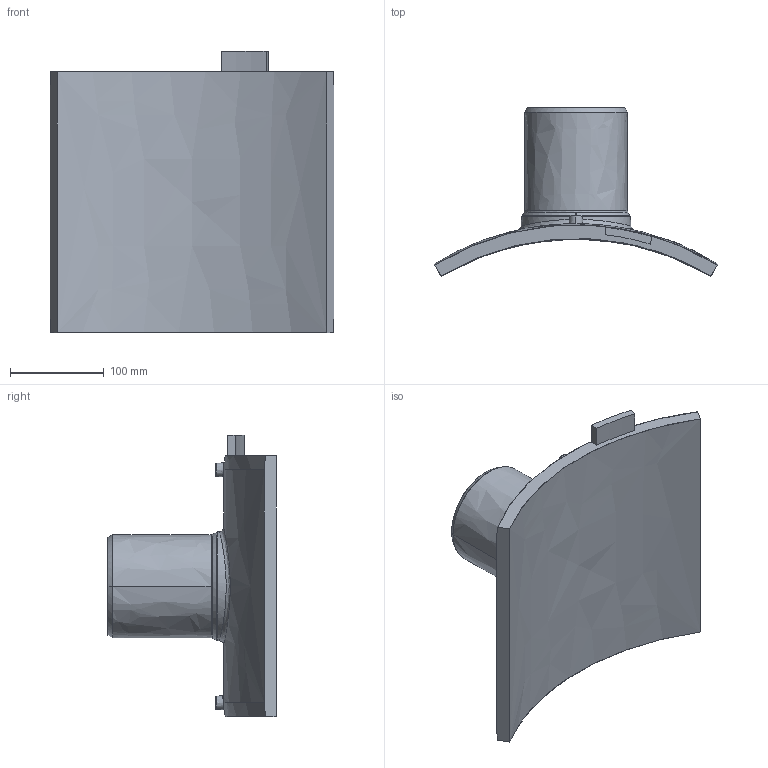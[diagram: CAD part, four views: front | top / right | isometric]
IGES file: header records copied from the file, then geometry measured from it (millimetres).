
Start section:  PTC IGES file: sa-uni_d560_110_01.igs
Global section: file name: sa-uni_d560_110_01.igs; native system: Pro/ENGINEER by Parametric Technology Corporation; preprocessor: 2011490; author: MikulicP; organization: Unknown; date: 20170206.132447; units: millimetre
Bounding box: 303.46 x 179.97 x 301 mm (x, y, z)
Surface area: 279887.2 mm2 (no closed solid volume)
Topology: 0 solids, 0 shells, 200 faces, 984 edges, 984 vertices
Faces by surface type: bspline 200
